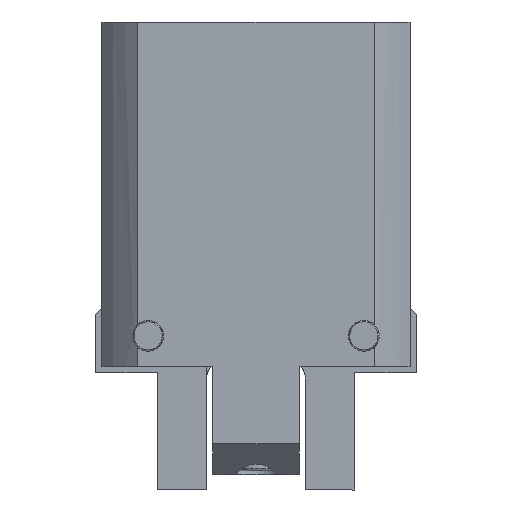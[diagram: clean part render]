
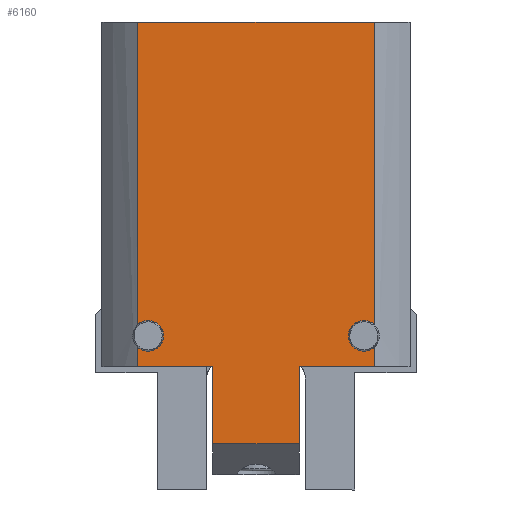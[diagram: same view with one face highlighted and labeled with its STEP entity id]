
A CAD part, left-side view. The second image highlights one B-rep face of the part: STEP entity #6160.
In plain terms, the highlighted planar face has unit normal (-1, 0, 0).
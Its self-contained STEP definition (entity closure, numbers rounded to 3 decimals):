
#174=LINE('',#9811,#536);
#184=LINE('',#9852,#546);
#201=LINE('',#9885,#563);
#280=LINE('',#10393,#642);
#293=LINE('',#10430,#655);
#306=LINE('',#10607,#668);
#358=LINE('',#10753,#720);
#359=LINE('',#10754,#721);
#360=LINE('',#10756,#722);
#361=LINE('',#10757,#723);
#536=VECTOR('',#7640,12.5);
#546=VECTOR('',#7682,14.);
#563=VECTOR('',#7709,12.5);
#642=VECTOR('',#7978,12.164);
#655=VECTOR('',#8015,12.164);
#668=VECTOR('',#8162,38.328);
#720=VECTOR('',#8316,49.034);
#721=VECTOR('',#8317,3.134);
#722=VECTOR('',#8320,49.034);
#723=VECTOR('',#8321,3.134);
#1037=PLANE('',#6803);
#1728=FACE_OUTER_BOUND('',#2279,.T.);
#2279=EDGE_LOOP('',(#5186,#5187,#5188,#5189,#5190,#5191,#5192,#5193,#5194,
#5195,#5196,#5197));
#2567=CIRCLE('',#6642,2.5);
#2569=CIRCLE('',#6648,2.5);
#2924=VERTEX_POINT('',#9808);
#2925=VERTEX_POINT('',#9810);
#2940=VERTEX_POINT('',#9851);
#2951=VERTEX_POINT('',#9884);
#3015=VERTEX_POINT('',#10147);
#3016=VERTEX_POINT('',#10148);
#3021=VERTEX_POINT('',#10245);
#3022=VERTEX_POINT('',#10246);
#3039=VERTEX_POINT('',#10385);
#3054=VERTEX_POINT('',#10428);
#3088=VERTEX_POINT('',#10604);
#3089=VERTEX_POINT('',#10606);
#3537=EDGE_CURVE('',#2924,#2925,#174,.T.);
#3556=EDGE_CURVE('',#2925,#2940,#184,.T.);
#3573=EDGE_CURVE('',#2940,#2951,#201,.T.);
#3676=EDGE_CURVE('',#3016,#3015,#2567,.T.);
#3684=EDGE_CURVE('',#3022,#3021,#2569,.T.);
#3706=EDGE_CURVE('',#3039,#2951,#280,.T.);
#3723=EDGE_CURVE('',#2924,#3054,#293,.T.);
#3771=EDGE_CURVE('',#3088,#3089,#306,.T.);
#3843=EDGE_CURVE('',#3088,#3022,#358,.T.);
#3844=EDGE_CURVE('',#3021,#3039,#359,.T.);
#3845=EDGE_CURVE('',#3089,#3015,#360,.T.);
#3846=EDGE_CURVE('',#3054,#3016,#361,.T.);
#5186=ORIENTED_EDGE('',*,*,#3845,.F.);
#5187=ORIENTED_EDGE('',*,*,#3771,.F.);
#5188=ORIENTED_EDGE('',*,*,#3843,.T.);
#5189=ORIENTED_EDGE('',*,*,#3684,.T.);
#5190=ORIENTED_EDGE('',*,*,#3844,.T.);
#5191=ORIENTED_EDGE('',*,*,#3706,.T.);
#5192=ORIENTED_EDGE('',*,*,#3573,.F.);
#5193=ORIENTED_EDGE('',*,*,#3556,.F.);
#5194=ORIENTED_EDGE('',*,*,#3537,.F.);
#5195=ORIENTED_EDGE('',*,*,#3723,.T.);
#5196=ORIENTED_EDGE('',*,*,#3846,.T.);
#5197=ORIENTED_EDGE('',*,*,#3676,.T.);
#6160=ADVANCED_FACE('',(#1728),#1037,.T.);
#6642=AXIS2_PLACEMENT_3D('',#10164,#7911,#7912);
#6648=AXIS2_PLACEMENT_3D('',#10261,#7923,#7924);
#6803=AXIS2_PLACEMENT_3D('',#10755,#8318,#8319);
#7640=DIRECTION('',(0.,0.,-1.));
#7682=DIRECTION('',(0.,1.,0.));
#7709=DIRECTION('',(0.,0.,1.));
#7911=DIRECTION('center_axis',(1.,0.,0.));
#7912=DIRECTION('ref_axis',(0.,0.,
-1.));
#7923=DIRECTION('center_axis',(1.,0.,0.));
#7924=DIRECTION('ref_axis',(0.,0.,
-1.));
#7978=DIRECTION('',(0.,-1.,0.));
#8015=DIRECTION('',(0.,-1.,0.));
#8162=DIRECTION('',(0.,-1.,0.));
#8316=DIRECTION('',(0.,0.,-1.));
#8317=DIRECTION('',(0.,0.,-1.));
#8318=DIRECTION('center_axis',(-1.,0.,0.));
#8319=DIRECTION('ref_axis',(0.,0.,1.));
#8320=DIRECTION('',(0.,0.,-1.));
#8321=DIRECTION('',(0.,0.,1.));
#9808=CARTESIAN_POINT('',(79.721,73.168,97.568));
#9810=CARTESIAN_POINT('',(79.721,73.168,85.068));
#9811=CARTESIAN_POINT('',(79.721,73.168,85.068));
#9851=CARTESIAN_POINT('',(79.721,87.168,85.068));
#9852=CARTESIAN_POINT('',(79.721,80.168,85.068));
#9884=CARTESIAN_POINT('',(79.721,87.168,97.568));
#9885=CARTESIAN_POINT('',(79.721,87.168,85.068));
#10147=CARTESIAN_POINT('',(79.721,61.005,104.434));
#10148=CARTESIAN_POINT('',(79.721,61.005,100.702));
#10164=CARTESIAN_POINT('Origin',(79.721,62.668,102.568));
#10245=CARTESIAN_POINT('',(79.721,99.332,100.702));
#10246=CARTESIAN_POINT('',(79.721,99.332,104.434));
#10261=CARTESIAN_POINT('Origin',(79.721,97.668,102.568));
#10385=CARTESIAN_POINT('',(79.721,99.332,97.568));
#10393=CARTESIAN_POINT('',(79.721,105.168,97.568));
#10428=CARTESIAN_POINT('',(79.721,61.005,97.568));
#10430=CARTESIAN_POINT('',(79.721,105.168,97.568));
#10604=CARTESIAN_POINT('',(79.721,99.332,153.468));
#10606=CARTESIAN_POINT('',(79.721,61.005,153.468));
#10607=CARTESIAN_POINT('',(79.721,105.168,153.468));
#10753=CARTESIAN_POINT('',(79.721,99.332,153.468));
#10754=CARTESIAN_POINT('',(79.721,99.332,111.568));
#10755=CARTESIAN_POINT('Origin',(79.721,99.332,153.468));
#10756=CARTESIAN_POINT('',(79.721,61.005,153.468));
#10757=CARTESIAN_POINT('',(79.721,61.005,111.568));
